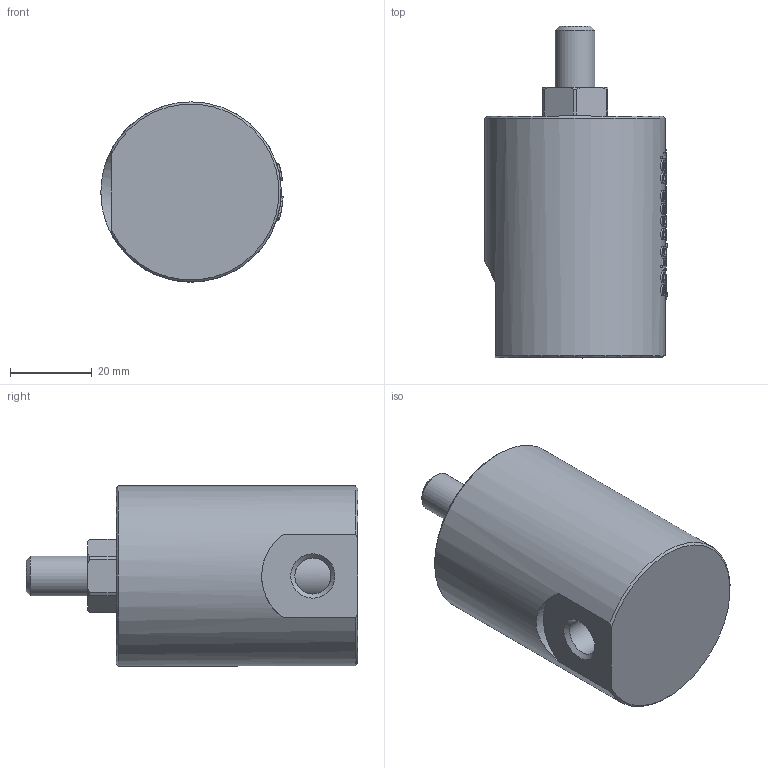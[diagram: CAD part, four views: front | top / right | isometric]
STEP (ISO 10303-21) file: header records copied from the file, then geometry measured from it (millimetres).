
FILE_DESCRIPTION(/* description */ (''),/* implementation_level */ '2;1');
FILE_NAME(/* name */ 'GYC0101.stp',/* time_stamp */ '2025-01-20T16:47:25+08:00',/* author */ (''),/* organization */ (''),/* preprocessor_version */ 'ST-DEVELOPER v16.7',/* originating_system */ 'SIEMENS PLM Software NX 12.0',/* authorisation */ '');
FILE_SCHEMA (('AUTOMOTIVE_DESIGN { 1 0 10303 214 3 1 1 1 }'));
Length unit declared in the file: millimetre
Products named in the file (1): HX056BE06534debr
Bounding box: 44.47 x 81 x 44 mm (x, y, z)
Volume: 89731.9 mm3; surface area: 12828.1 mm2
Topology: 1 solids, 1 shells, 354 faces, 917 edges, 614 vertices
Faces by surface type: plane 198, extrusion 88, bspline 29, cylinder 28, cone 11
Full cylindrical faces by diameter (mm): 5 x1, 8.8 x1, 9.73 x1, 44 x1
Entity records: 29344 total; most frequent: CARTESIAN_POINT 21838, ORIENTED_EDGE 1778, DIRECTION 1025, EDGE_CURVE 889, B_SPLINE_CURVE_WITH_KNOTS 677, VERTEX_POINT 611, EDGE_LOOP 428, AXIS2_PLACEMENT_3D 399
